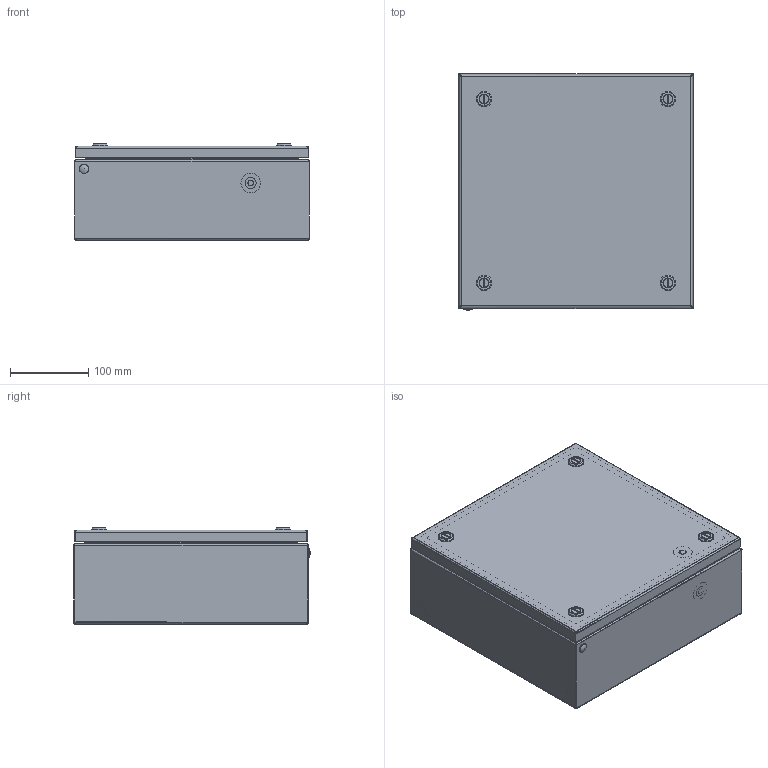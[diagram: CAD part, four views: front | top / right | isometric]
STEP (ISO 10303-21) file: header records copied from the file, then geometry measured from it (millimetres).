
FILE_DESCRIPTION (( 'STEP AP214' ), '1' );
FILE_NAME ('BCS 30.30.12 Êîðîáêà.STEP', '2022-09-13T11:47:45', ( '' ), ( '' ), 'SwSTEP 2.0', 'SolidWorks 2019', '' );
FILE_SCHEMA (( 'AUTOMOTIVE_DESIGN' ));
Length unit declared in the file: millimetre
Products named in the file (1): BCS 30.30.12 Êîðîáêà
Bounding box: 300 x 302.5 x 123 mm (x, y, z)
Volume: 637040 mm3; surface area: 926704.1 mm2
Topology: 36 solids, 36 shells, 1765 faces, 4308 edges, 2687 vertices
Faces by surface type: plane 1122, cylinder 385, cone 113, bspline 89, torus 47, sphere 9
Full cylindrical faces by diameter (mm): 3.2 x38, 6 x4, 7 x6, 9 x4, 9.3 x1, 10 x1, 12 x1, 14 x1, 24 x1, 24.8 x1
Entity records: 85374 total; most frequent: CARTESIAN_POINT 25327, ORIENTED_EDGE 8440, DIRECTION 7800, EDGE_CURVE 4220, VECTOR 2818, LINE 2818, VERTEX_POINT 2683, AXIS2_PLACEMENT_3D 2491
